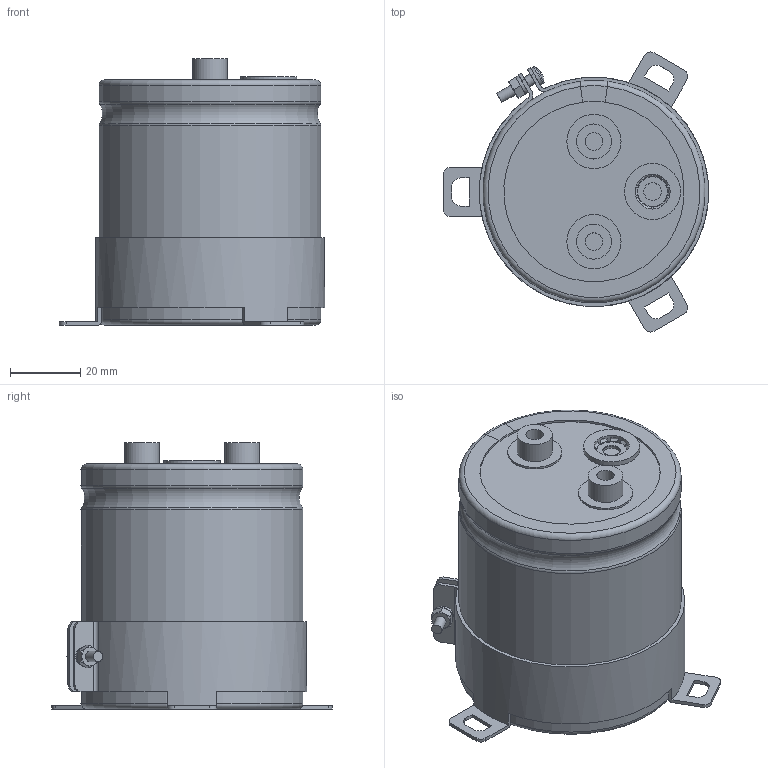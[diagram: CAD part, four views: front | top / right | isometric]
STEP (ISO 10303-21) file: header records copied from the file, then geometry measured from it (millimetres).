
FILE_DESCRIPTION(/* description */ (''),/* implementation_level */ '2;1');
FILE_NAME(/* name */ '63.5x70_Screw.stp',/* time_stamp */ '2017-09-15T17:53:32+09:00',/* author */ (''),/* organization */ (''),/* preprocessor_version */ 'ST-DEVELOPER v16',/* originating_system */ 'SIEMENS PLM Software NX 11.0',/* authorisation */ '');
FILE_SCHEMA (('AUTOMOTIVE_DESIGN { 1 0 10303 214 3 1 1 1 }'));
Length unit declared in the file: millimetre
Products named in the file (1): 63.5x70_Screw
Bounding box: 75.75 x 80.01 x 76 mm (x, y, z)
Volume: 223927.5 mm3; surface area: 63069.6 mm2
Topology: 9 solids, 9 shells, 259 faces, 644 edges, 415 vertices
Faces by surface type: plane 112, cylinder 66, torus 49, cone 31, sphere 1
Full cylindrical faces by diameter (mm): 3 x5, 5 x6, 5.5 x2, 10 x4, 15.5 x2, 16 x1, 62.3 x2
Entity records: 8411 total; most frequent: CARTESIAN_POINT 2059, DIRECTION 1296, ORIENTED_EDGE 1214, EDGE_CURVE 607, AXIS2_PLACEMENT_3D 541, VERTEX_POINT 408, EDGE_LOOP 317, CIRCLE 281
